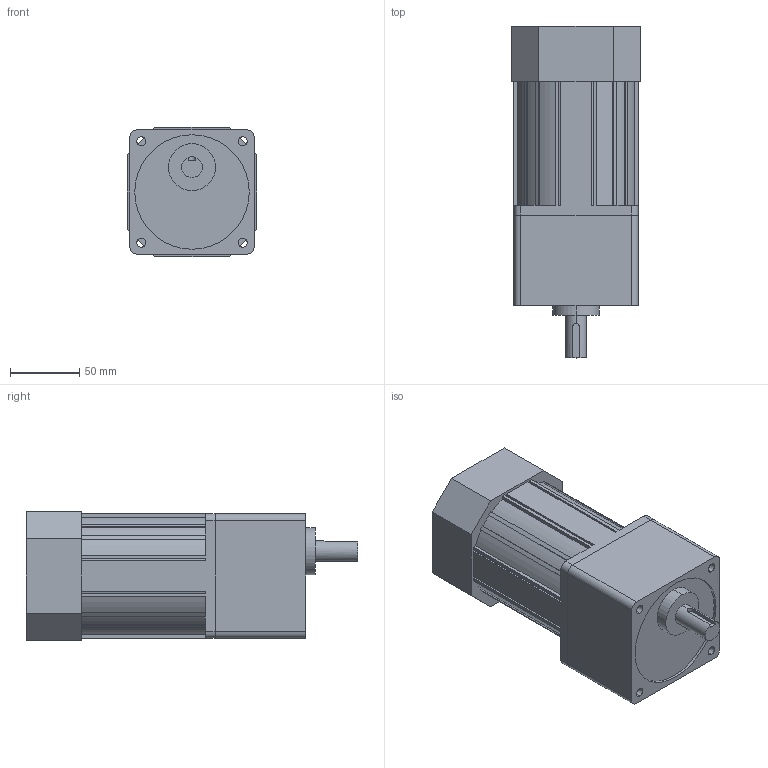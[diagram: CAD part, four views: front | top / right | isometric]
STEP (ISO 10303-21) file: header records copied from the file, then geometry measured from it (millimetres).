
FILE_DESCRIPTION (( 'STEP AP203' ), '1' );
FILE_NAME ('L9VK003B + L9I120PBH.STEP', '2018-09-20T05:36:28', ( '' ), ( '' ), 'SwSTEP 2.0', 'SolidWorks 2017', '' );
FILE_SCHEMA (( 'CONFIG_CONTROL_DESIGN' ));
Length unit declared in the file: millimetre
Products named in the file (1): L9VK003B + L9I120PBH
Bounding box: 94 x 240.5 x 94 mm (x, y, z)
Volume: 1482216.1 mm3; surface area: 113492.9 mm2
Topology: 2 solids, 2 shells, 138 faces, 390 edges, 260 vertices
Faces by surface type: plane 87, cylinder 51
Entity records: 4610 total; most frequent: CARTESIAN_POINT 821, ORIENTED_EDGE 780, DIRECTION 767, EDGE_CURVE 390, VECTOR 287, LINE 287, VERTEX_POINT 260, AXIS2_PLACEMENT_3D 240
